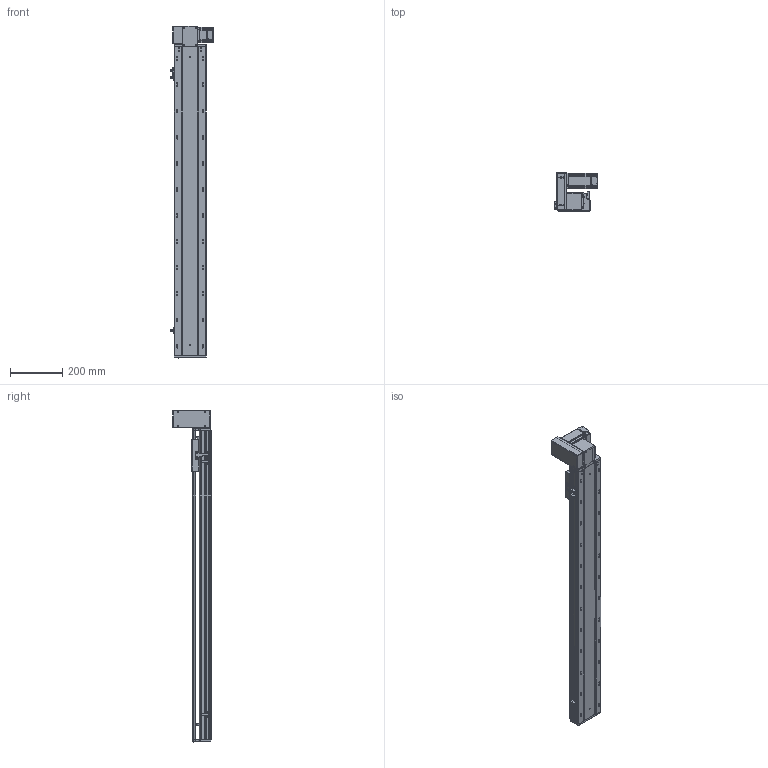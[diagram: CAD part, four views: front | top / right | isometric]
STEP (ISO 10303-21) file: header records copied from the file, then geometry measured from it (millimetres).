
FILE_DESCRIPTION (( 'STEP AP203' ), '1' );
FILE_NAME ('RY120-T-300-UL.SLDASM_950.step', '2021-03-01T05:36:08', ( '盈信电脑' ), ( '东莞市道滘镇水果街19号' ), 'SwSTEP 2.0', 'SolidWorks 2012', '' );
FILE_SCHEMA (( 'CONFIG_CONTROL_DESIGN' ));
Products named in the file (18): RY120-T萇儂欶; RY120-T翋肮祭謫裔啣; RY120-T-300-UL.SLDASM_950; RY120-T蹟翐M4; 滅袉蝶18-10; RY120-T主同步轮轴承压盖; 侂狟400W侜督萇儂; RY120-T肮祭湍揤踡輸2; 15; RY120-T翋肮祭盓傅釱; RY120-T萇儂假蚾啣; 覜茼ん672; RY120-T肮祭湍揤踡輸1; RY120外置感应片(140共用）; RY120綴裔啣; RY120-T-300-UL倰第菁釱_950; RY120肮祭湍臏賑輸; RY120-T-300-UL倰第奻裔啣_950
Assembly tree (23 placements, depth 3):
  RY120-T-300-UL.SLDASM_950
    RY120-T-300-UL倰第菁釱_950
    RY120-T-300-UL倰第奻裔啣_950
    RY120肮祭湍臏賑輸
    RY120綴裔啣
    覜茼ん672  x3
    RY120外置感应片(140共用）
    RY120-T肮祭湍揤踡輸1
    RY120-T肮祭湍揤踡輸2
    RY120-T翋肮祭盓傅釱
    RY120-T萇儂假蚾啣
    侂狟400W侜督萇儂
      15
    RY120-T主同步轮轴承压盖
    滅袉蝶18-10  x2
    RY120-T萇儂欶
    RY120-T蹟翐M4  x4
    RY120-T翋肮祭謫裔啣
Bounding box: 164.2 x 146 x 1271 mm (x, y, z)
Volume: 3499203.2 mm3; surface area: 1309203.1 mm2
Topology: 23 solids, 23 shells, 3022 faces, 8324 edges, 5356 vertices
Faces by surface type: plane 1466, cylinder 1210, cone 257, bspline 89
Entity records: 98776 total; most frequent: CARTESIAN_POINT 26444, ORIENTED_EDGE 15080, DIRECTION 13990, EDGE_CURVE 7540, VERTEX_POINT 4943, AXIS2_PLACEMENT_3D 4721, LINE 4548, VECTOR 4548
